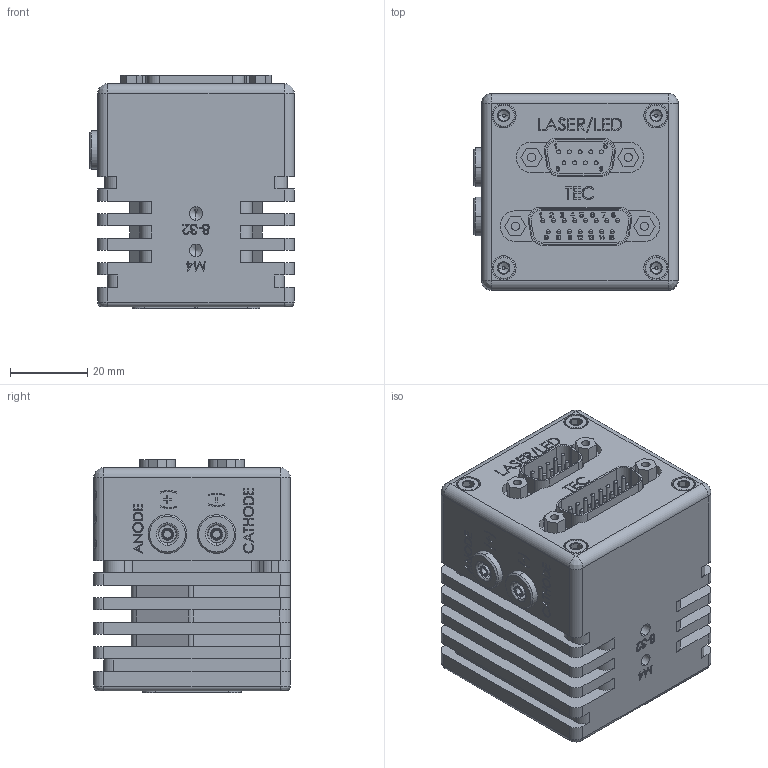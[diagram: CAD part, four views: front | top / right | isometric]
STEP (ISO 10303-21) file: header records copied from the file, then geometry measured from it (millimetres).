
FILE_DESCRIPTION (( 'STEP AP214' ), '1' );
FILE_NAME ('226 TLA 2.STEP', '2018-01-15T18:21:47', ( '' ), ( '' ), 'SwSTEP 2.0', 'SolidWorks 2016', '' );
FILE_SCHEMA (( 'AUTOMOTIVE_DESIGN' ));
Length unit declared in the file: inch
Products named in the file (1): 226 TLA 2
Bounding box: 52.83 x 50.8 x 60.36 mm (x, y, z)
Volume: 126574.8 mm3; surface area: 32795.2 mm2
Topology: 1 solids, 1 shells, 2561 faces, 6899 edges, 4472 vertices
Faces by surface type: plane 1636, bspline 518, cylinder 293, cone 114
Entity records: 126587 total; most frequent: CARTESIAN_POINT 44122, ORIENTED_EDGE 13618, DIRECTION 10599, EDGE_CURVE 6809, VECTOR 5081, LINE 5081, VERTEX_POINT 4472, EDGE_LOOP 2797
